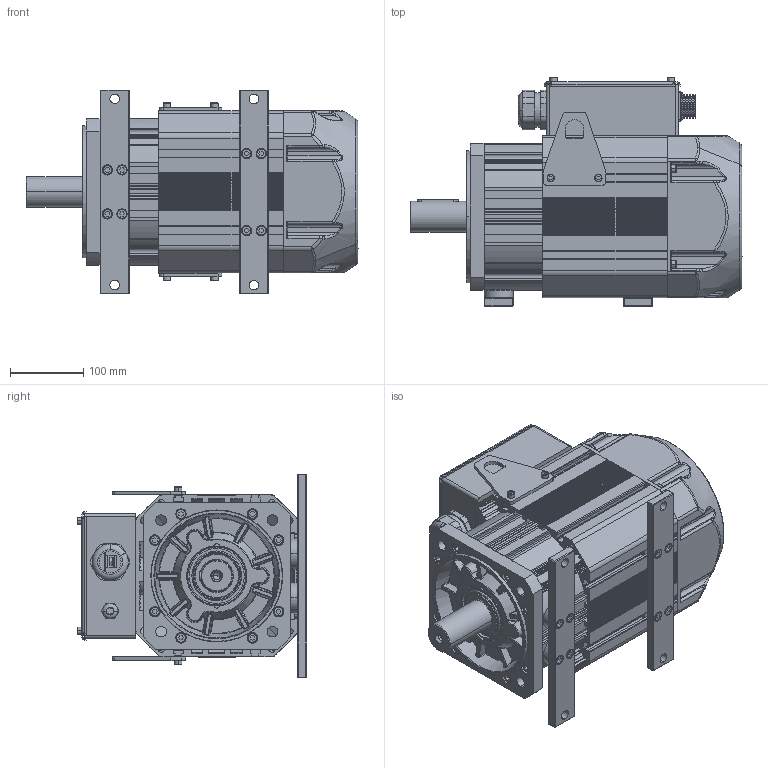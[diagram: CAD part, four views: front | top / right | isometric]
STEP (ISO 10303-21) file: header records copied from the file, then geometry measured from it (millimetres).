
FILE_DESCRIPTION((''),'2;1');
FILE_NAME('60N___SW0001','2025-08-25T08:39:29',('0109502'),(''),'CREO PARAMETRIC BY PTC INC, 2019080','CREO PARAMETRIC BY PTC INC, 2019080','');
FILE_SCHEMA(('CONFIG_CONTROL_DESIGN'));
Products named in the file (1): 60N___SW0001
Bounding box: 453 x 312.5 x 278.25 mm (x, y, z)
Surface area: 1452320 mm2 (no closed solid volume)
Topology: 0 solids, 160 shells, 3344 faces, 10922 edges, 7641 vertices
Faces by surface type: plane 1511, cylinder 1139, torus 265, bspline 207, cone 192, sphere 30
Entity records: 135484 total; most frequent: CARTESIAN_POINT 39760, DIRECTION 20331, ORIENTED_EDGE 18496, EDGE_CURVE 10902, VERTEX_POINT 7641, AXIS2_PLACEMENT_3D 7066, VECTOR 6199, LINE 6199
